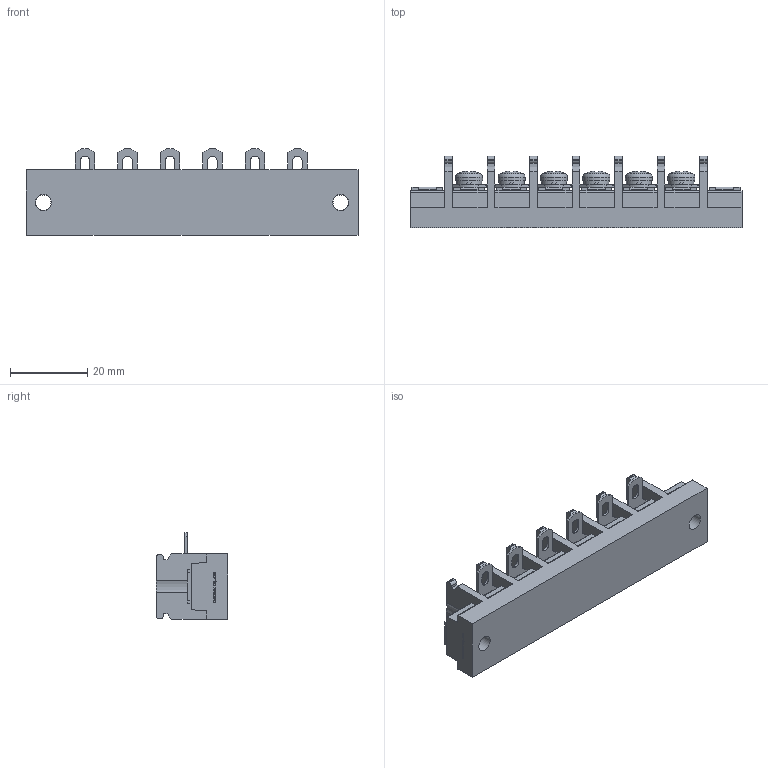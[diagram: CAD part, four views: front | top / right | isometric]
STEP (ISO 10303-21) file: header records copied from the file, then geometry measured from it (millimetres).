
FILE_DESCRIPTION(/* description */ ('Alibre Inc.'),/* implementation_level */ '2;1');
FILE_NAME(/* name */ 'export0',/* time_stamp */ '2015-10-19T19:31:31+09:00',/* author */ (''),/* organization */ (''),/* preprocessor_version */ 'ST-DEVELOPER v14',/* originating_system */ 'Alibre',/* authorisation */ '');
FILE_SCHEMA (('CONFIG_CONTROL_DESIGN'));
Length unit declared in the file: centimetre
Products named in the file (1): ID_1
Bounding box: 86 x 18.5 x 22.5 mm (x, y, z)
Volume: 15758.1 mm3; surface area: 9667.4 mm2
Topology: 1 solids, 1 shells, 1260 faces, 3500 edges, 2280 vertices
Faces by surface type: plane 978, cylinder 136, bspline 104, cone 24, torus 12, sphere 6
Full cylindrical faces by diameter (mm): 4 x8, 4.2 x8, 6.5 x6, 7 x6
Entity records: 37652 total; most frequent: CARTESIAN_POINT 7785, ORIENTED_EDGE 6892, DIRECTION 4691, EDGE_CURVE 3446, VECTOR 2553, LINE 2553, VERTEX_POINT 2260, AXIS2_PLACEMENT_3D 1484
